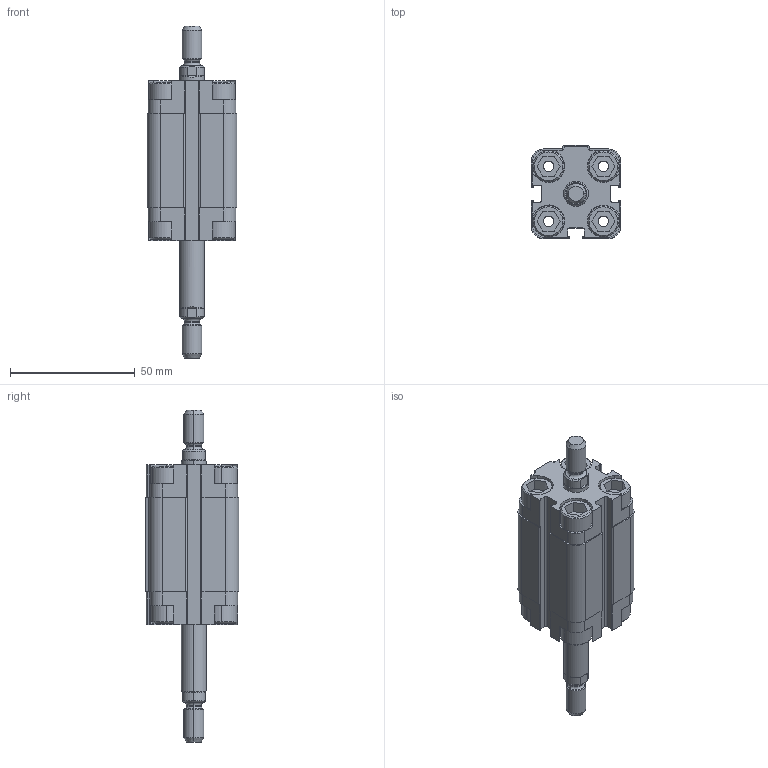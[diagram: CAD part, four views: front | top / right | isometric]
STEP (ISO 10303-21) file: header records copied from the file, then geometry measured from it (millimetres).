
FILE_DESCRIPTION (( 'STEP AP203' ), '1' );
FILE_NAME ('WJM0200025A.step', '2013-04-22T06:44:00', ( '' ), ( '' ), 'SwSTEP 2.0', 'SolidWorks 2012', '' );
FILE_SCHEMA (( 'CONFIG_CONTROL_DESIGN' ));
Length unit declared in the file: millimetre
Products named in the file (1): WJM0200025A
Bounding box: 36 x 37.5 x 133 mm (x, y, z)
Volume: 68505.4 mm3; surface area: 23207.6 mm2
Topology: 1 solids, 1 shells, 364 faces, 944 edges, 612 vertices
Faces by surface type: plane 192, cylinder 124, cone 40, torus 8
Entity records: 11233 total; most frequent: CARTESIAN_POINT 2005, DIRECTION 1958, ORIENTED_EDGE 1888, EDGE_CURVE 944, AXIS2_PLACEMENT_3D 677, VERTEX_POINT 612, LINE 604, VECTOR 604
